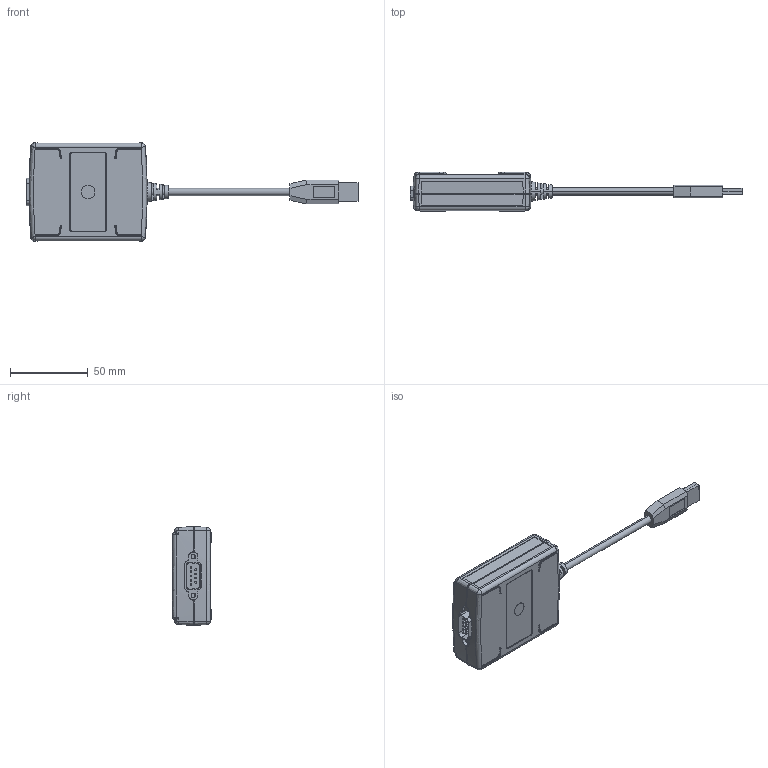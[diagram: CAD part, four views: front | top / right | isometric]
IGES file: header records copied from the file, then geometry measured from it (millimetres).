
Start section:  PTC IGES file: cu_assy_usb-can.igs
Global section: file name: cu_assy_usb-can.igs; native system: Pro/ENGINEER by Parametric Technology Corporation; preprocessor: 2006080; author: jpfaff; organization: Unknown; date: 090916.134113; units: inch
Bounding box: 214.15 x 25.3 x 63.5 mm (x, y, z)
Surface area: 37019.5 mm2 (no closed solid volume)
Topology: 0 solids, 0 shells, 1794 faces, 7980 edges, 7980 vertices
Faces by surface type: revolution 1175, bspline 619
